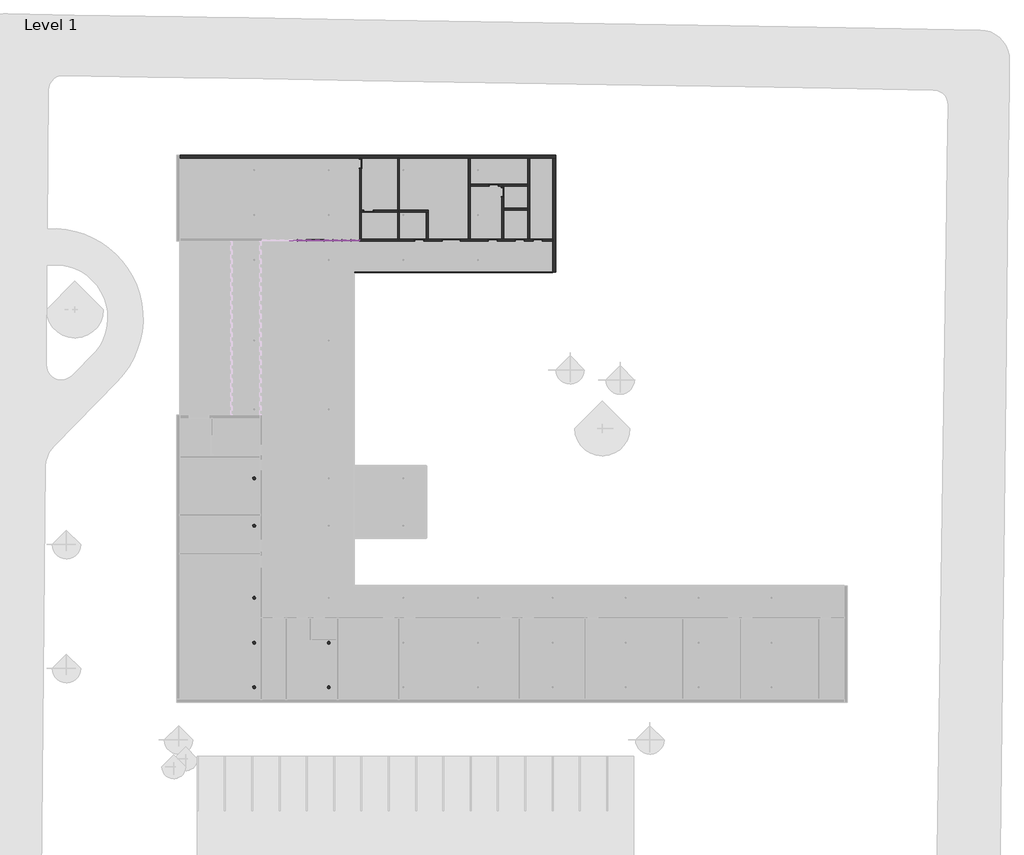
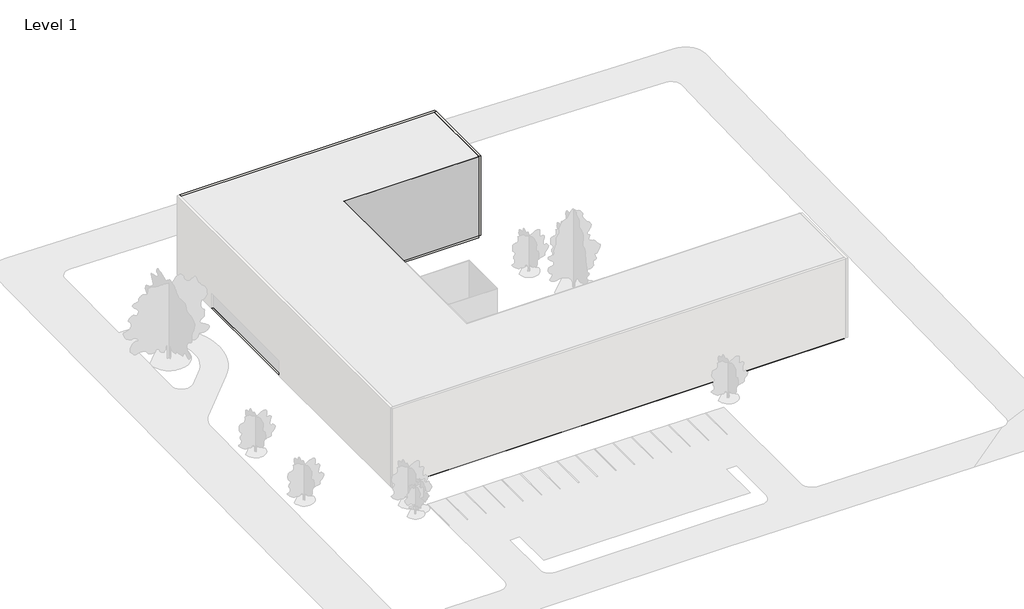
# One storey, part 4 of 5: 49 members, 15 plates, 12 walls, 10 doors, 7 columns, 1 slab.
"""IFC4 building model written with IfcOpenShell, lengths in millimetres."""

from ifc_helpers import new_model, si_unit, frame, origin, origin_with_axes, place, context, project, spatial, polyline, outline, extrude, faceted_brep, transform, mapped, element, save
from components import m_concrete_round_column_300mm_df790aaa, door_0915mm_x_2134mm_2aa27b83, door_0915mm_x_2134mm_3fa07aa3, door_2_x_0915mm_x_2134mm_c74f849d, m_door_curtain_wall_double_storefront_m_door_curtain_wall_1244dbcd, rectangular_mullion_50mm_x_150mm_13593f2b, rectangular_mullion_50mm_x_150mm_0e57614d, rectangular_mullion_50mm_x_150mm_d8a63713, rectangular_mullion_50mm_x_150mm_a5e1a8f4, rectangular_mullion_50mm_x_150mm_caa46ae3, rectangular_mullion_50mm_x_150mm_228869d4, rectangular_mullion_50mm_x_150mm_eff96389, rectangular_mullion_50mm_x_150mm_550cda47, rectangular_mullion_50mm_x_150mm_a28728bf, rectangular_mullion_50mm_x_150mm_0f59f38f, rectangular_mullion_50mm_x_150mm_22af440f, rectangular_mullion_50mm_x_150mm_1cdaa0f1, system_panel_glazed_952163be, system_panel_glazed_dff54dbd, system_panel_glazed_4aef0c34, system_panel_glazed_3f9df8c7, system_panel_glazed_45ebec01

model = new_model("IFC4")

# Units and contexts
model_context = context("Model", 3, world=origin())
ifc_project = project(units=[si_unit("LENGTHUNIT", "METRE", prefix="MILLI")], contexts=[model_context])

# Site, building, storey
site = spatial("IfcSite", under=ifc_project)
building = spatial("IfcBuilding", under=site)
storey = spatial("IfcBuildingStorey", under=building, Name="Level 1", Elevation=0.0)

# Columns
placement = place(None, origin())
m_concrete_round_column_300mm_shape = m_concrete_round_column_300mm_df790aaa(model_context)
element("IfcColumn", 1, ObjectType="M_Concrete-Round-Column : 300mm", at=placement, inside=storey, context=model_context, shape_type="MappedRepresentation", body=[
    mapped(m_concrete_round_column_300mm_shape, transform((-2539.0909489, -1309.4607941, 0.0), x_axis=(-1.0, 0.0, 0.0), y_axis=(0.0, -1.0, 0.0), z_axis=(0.0, 0.0, 1.0))),
])
element("IfcColumn", 2, ObjectType="M_Concrete-Round-Column : 300mm", at=placement, inside=storey, context=model_context, shape_type="MappedRepresentation", body=[
    mapped(m_concrete_round_column_300mm_shape, transform((-2539.0909489, -6063.8611817, 0.0), x_axis=(-1.0, 0.0, 0.0), y_axis=(0.0, -1.0, 0.0), z_axis=(0.0, 0.0, 1.0))),
])
element("IfcColumn", 3, ObjectType="M_Concrete-Round-Column : 300mm", at=placement, inside=storey, context=model_context, shape_type="MappedRepresentation", body=[
    mapped(m_concrete_round_column_300mm_shape, transform((-2539.0909489, -17821.5310875, 0.0), x_axis=(-1.0, 0.0, 0.0), y_axis=(0.0, -1.0, 0.0), z_axis=(0.0, 0.0, 1.0))),
])
element("IfcColumn", 4, ObjectType="M_Concrete-Round-Column : 300mm", at=placement, inside=storey, context=model_context, shape_type="MappedRepresentation", body=[
    mapped(m_concrete_round_column_300mm_shape, transform((-2539.0909489, -13332.3615692, 0.0), x_axis=(-1.0, 0.0, 0.0), y_axis=(0.0, -1.0, 0.0), z_axis=(0.0, 0.0, 1.0))),
])
element("IfcColumn", 5, ObjectType="M_Concrete-Round-Column : 300mm", at=placement, inside=storey, context=model_context, shape_type="MappedRepresentation", body=[
    mapped(m_concrete_round_column_300mm_shape, transform((-2539.0909489, -22310.7006057, 0.0), x_axis=(-1.0, 0.0, 0.0), y_axis=(0.0, -1.0, 0.0), z_axis=(0.0, 0.0, 1.0))),
])
element("IfcColumn", 6, ObjectType="M_Concrete-Round-Column : 300mm", at=placement, inside=storey, context=model_context, shape_type="MappedRepresentation", body=[
    mapped(m_concrete_round_column_300mm_shape, transform((4948.6567657, -17821.5310875, 0.0), x_axis=(-1.0, 0.0, 0.0), y_axis=(0.0, -1.0, 0.0), z_axis=(0.0, 0.0, 1.0))),
])
element("IfcColumn", 7, ObjectType="M_Concrete-Round-Column : 300mm", at=placement, inside=storey, context=model_context, shape_type="MappedRepresentation", body=[
    mapped(m_concrete_round_column_300mm_shape, transform((4948.6567657, -22310.7006057, 0.0), x_axis=(-1.0, 0.0, 0.0), y_axis=(0.0, -1.0, 0.0), z_axis=(0.0, 0.0, 1.0))),
])

# Doors
door_0915mm_x_2134mm_shape = door_0915mm_x_2134mm_2aa27b83(model_context)
element("IfcDoor", 8, ObjectType="m-doors-hm-f1-a : 0915mm x 2134mm", at=placement, inside=storey, context=model_context, shape_type="MappedRepresentation", body=[
    mapped(door_0915mm_x_2134mm_shape, transform((8314.5010724, 30269.5799804, 0.0), x_axis=(0.0, -1.0, 0.0), y_axis=(1.0, 0.0, 0.0), z_axis=(0.0, 0.0, 1.0))),
])
element("IfcDoor", 9, ObjectType="m-doors-hm-f1-a : 0915mm x 2134mm", at=placement, inside=storey, context=model_context, shape_type="MappedRepresentation", body=[
    mapped(door_0915mm_x_2134mm_shape, transform((14023.5010724, 22787.5799804, 0.0), x_axis=(1.0, 0.0, 0.0), y_axis=(0.0, 1.0, 0.0), z_axis=(0.0, 0.0, 1.0))),
])
element("IfcDoor", 10, ObjectType="m-doors-hm-f1-a : 0915mm x 2134mm", at=placement, inside=storey, context=model_context, shape_type="MappedRepresentation", body=[
    mapped(door_0915mm_x_2134mm_shape, transform((22573.8999097, 27428.5799804, 0.0), x_axis=(0.0, -1.0, 0.0), y_axis=(1.0, 0.0, 0.0), z_axis=(0.0, 0.0, 1.0))),
])
element("IfcDoor", 11, ObjectType="m-doors-hm-f1-a : 0915mm x 2134mm", at=placement, inside=storey, context=model_context, shape_type="MappedRepresentation", body=[
    mapped(door_0915mm_x_2134mm_shape, transform((21498.8999097, 28303.5799804, 0.0), x_axis=(1.0, 0.0, 0.0), y_axis=(0.0, 1.0, 0.0), z_axis=(0.0, 0.0, 1.0))),
])
element("IfcDoor", 12, ObjectType="m-doors-hm-f1-a : 0915mm x 2134mm", at=placement, inside=storey, context=model_context, shape_type="MappedRepresentation", body=[
    mapped(door_0915mm_x_2134mm_shape, transform((25906.8999097, 22787.5799804, 0.0), x_axis=(1.0, 0.0, 0.0), y_axis=(0.0, 1.0, 0.0), z_axis=(0.0, 0.0, 1.0))),
])
door_0915mm_x_2134mm_2_shape = door_0915mm_x_2134mm_3fa07aa3(model_context)
element("IfcDoor", 13, ObjectType="m-doors-hm-f1-a : 0915mm x 2134mm", at=placement, inside=storey, context=model_context, shape_type="MappedRepresentation", body=[
    mapped(door_0915mm_x_2134mm_2_shape, transform((8939.5010724, 25345.5799804, 0.0), x_axis=(1.0, 0.0, 0.0), y_axis=(0.0, 1.0, 0.0), z_axis=(0.0, 0.0, 1.0))),
])
element("IfcDoor", 14, ObjectType="m-doors-hm-f1-a : 0915mm x 2134mm", at=placement, inside=storey, context=model_context, shape_type="MappedRepresentation", body=[
    mapped(door_0915mm_x_2134mm_2_shape, transform((21398.8999097, 22787.5799804, 0.0), x_axis=(-1.0, 0.0, 0.0), y_axis=(0.0, -1.0, 0.0), z_axis=(0.0, 0.0, 1.0))),
])
element("IfcDoor", 15, ObjectType="m-doors-hm-f1-a : 0915mm x 2134mm", at=placement, inside=storey, context=model_context, shape_type="MappedRepresentation", body=[
    mapped(door_0915mm_x_2134mm_2_shape, transform((24106.8999097, 22787.5799804, 0.0), x_axis=(-1.0, 0.0, 0.0), y_axis=(0.0, -1.0, 0.0), z_axis=(0.0, 0.0, 1.0))),
])
door_2_x_0915mm_x_2134mm_shape = door_2_x_0915mm_x_2134mm_c74f849d(model_context)
element("IfcDoor", 16, ObjectType="m-doors-hm-f2-a : 2 x 0915mm x 2134mm", at=placement, inside=storey, context=model_context, shape_type="MappedRepresentation", body=[
    mapped(door_2_x_0915mm_x_2134mm_shape, transform((17239.5010724, 22787.5799804, 0.0), x_axis=(1.0, 0.0, 0.0), y_axis=(0.0, 1.0, 0.0), z_axis=(0.0, 0.0, 1.0))),
])
m_door_curtain_wall_double_storefront_m_door_curtain_wall_shape = m_door_curtain_wall_double_storefront_m_door_curtain_wall_1244dbcd(model_context)
element("IfcDoor", 17, ObjectType="M_Door-Curtain-Wall-Double-Storefront : M_Door-Curtain-Wall-Double-Storefront", at=placement, inside=storey, context=model_context, shape_type="MappedRepresentation", body=[
    mapped(m_door_curtain_wall_double_storefront_m_door_curtain_wall_shape, transform((3603.7102833, 22595.5799804, 0.0), x_axis=(-1.0, 0.0, 0.0), y_axis=(0.0, -1.0, 0.0), z_axis=(0.0, 0.0, 1.0))),
])

# Members
rectangular_mullion_50mm_x_150mm_shape = rectangular_mullion_50mm_x_150mm_13593f2b(model_context)
element("IfcMember", 18, ObjectType="Rectangular Mullion : 50mm x 150mm", at=placement, inside=storey, context=model_context, shape_type="MappedRepresentation", body=[
    mapped(rectangular_mullion_50mm_x_150mm_shape, transform((7997.5010724, 22595.5799804, 0.0), x_axis=(0.0, 0.0, -1.0), y_axis=(0.0, 1.0, 0.0), z_axis=(1.0, 0.0, 0.0))),
])
element("IfcMember", 19, ObjectType="Rectangular Mullion : 50mm x 150mm", at=placement, inside=storey, context=model_context, shape_type="MappedRepresentation", body=[
    mapped(rectangular_mullion_50mm_x_150mm_shape, transform((7183.7429143, 22595.5799804, 3550.0), x_axis=(0.0, 0.0, 1.0), y_axis=(0.0, 1.0, 0.0), z_axis=(-1.0, 0.0, 0.0))),
])
rectangular_mullion_50mm_x_150mm_2_shape = rectangular_mullion_50mm_x_150mm_0e57614d(model_context)
element("IfcMember", 20, ObjectType="Rectangular Mullion : 50mm x 150mm", at=placement, inside=storey, context=model_context, shape_type="MappedRepresentation", body=[
    mapped(rectangular_mullion_50mm_x_150mm_2_shape, transform((6294.9847566, 22595.5799804, 3550.0), x_axis=(0.0, 0.0, 1.0), y_axis=(0.0, 1.0, 0.0), z_axis=(-1.0, 0.0, 0.0))),
])
element("IfcMember", 21, ObjectType="Rectangular Mullion : 50mm x 150mm", at=placement, inside=storey, context=model_context, shape_type="MappedRepresentation", body=[
    mapped(rectangular_mullion_50mm_x_150mm_2_shape, transform((5406.2265988, 22595.5799804, 3550.0), x_axis=(0.0, 0.0, 1.0), y_axis=(0.0, 1.0, 0.0), z_axis=(-1.0, 0.0, 0.0))),
])
element("IfcMember", 22, ObjectType="Rectangular Mullion : 50mm x 150mm", at=placement, inside=storey, context=model_context, shape_type="MappedRepresentation", body=[
    mapped(rectangular_mullion_50mm_x_150mm_2_shape, transform((4517.4684411, 22595.5799804, 3550.0), x_axis=(0.0, 0.0, 1.0), y_axis=(0.0, 1.0, 0.0), z_axis=(-1.0, 0.0, 0.0))),
])
element("IfcMember", 23, ObjectType="Rectangular Mullion : 50mm x 150mm", at=placement, inside=storey, context=model_context, shape_type="MappedRepresentation", body=[
    mapped(rectangular_mullion_50mm_x_150mm_2_shape, transform((3628.7102833, 22595.5799804, 3550.0), x_axis=(0.0, 0.0, 1.0), y_axis=(0.0, 1.0, 0.0), z_axis=(-1.0, 0.0, 0.0))),
])
element("IfcMember", 24, ObjectType="Rectangular Mullion : 50mm x 150mm", at=placement, inside=storey, context=model_context, shape_type="MappedRepresentation", body=[
    mapped(rectangular_mullion_50mm_x_150mm_2_shape, transform((2739.9521255, 22595.5799804, 3550.0), x_axis=(0.0, 0.0, 1.0), y_axis=(0.0, 1.0, 0.0), z_axis=(-1.0, 0.0, 0.0))),
])
element("IfcMember", 25, ObjectType="Rectangular Mullion : 50mm x 150mm", at=placement, inside=storey, context=model_context, shape_type="MappedRepresentation", body=[
    mapped(rectangular_mullion_50mm_x_150mm_2_shape, transform((1851.1939678, 22595.5799804, 3550.0), x_axis=(0.0, 0.0, 1.0), y_axis=(0.0, 1.0, 0.0), z_axis=(-1.0, 0.0, 0.0))),
])
element("IfcMember", 26, ObjectType="Rectangular Mullion : 50mm x 150mm", at=placement, inside=storey, context=model_context, shape_type="MappedRepresentation", body=[
    mapped(rectangular_mullion_50mm_x_150mm_2_shape, transform((7133.7429143, 22595.5799804, 0.0), x_axis=(0.0, 0.0, -1.0), y_axis=(0.0, 1.0, 0.0), z_axis=(1.0, 0.0, 0.0))),
])
element("IfcMember", 27, ObjectType="Rectangular Mullion : 50mm x 150mm", at=placement, inside=storey, context=model_context, shape_type="MappedRepresentation", body=[
    mapped(rectangular_mullion_50mm_x_150mm_2_shape, transform((6244.9847566, 22595.5799804, 0.0), x_axis=(0.0, 0.0, -1.0), y_axis=(0.0, 1.0, 0.0), z_axis=(1.0, 0.0, 0.0))),
])
element("IfcMember", 28, ObjectType="Rectangular Mullion : 50mm x 150mm", at=placement, inside=storey, context=model_context, shape_type="MappedRepresentation", body=[
    mapped(rectangular_mullion_50mm_x_150mm_2_shape, transform((5356.2265988, 22595.5799804, 0.0), x_axis=(0.0, 0.0, -1.0), y_axis=(0.0, 1.0, 0.0), z_axis=(1.0, 0.0, 0.0))),
])
element("IfcMember", 29, ObjectType="Rectangular Mullion : 50mm x 150mm", at=placement, inside=storey, context=model_context, shape_type="MappedRepresentation", body=[
    mapped(rectangular_mullion_50mm_x_150mm_2_shape, transform((2689.9521255, 22595.5799804, 0.0), x_axis=(0.0, 0.0, -1.0), y_axis=(0.0, 1.0, 0.0), z_axis=(1.0, 0.0, 0.0))),
])
element("IfcMember", 30, ObjectType="Rectangular Mullion : 50mm x 150mm", at=placement, inside=storey, context=model_context, shape_type="MappedRepresentation", body=[
    mapped(rectangular_mullion_50mm_x_150mm_2_shape, transform((1801.1939678, 22595.5799804, 0.0), x_axis=(0.0, 0.0, -1.0), y_axis=(0.0, 1.0, 0.0), z_axis=(1.0, 0.0, 0.0))),
])
rectangular_mullion_50mm_x_150mm_3_shape = rectangular_mullion_50mm_x_150mm_d8a63713(model_context)
element("IfcMember", 31, ObjectType="Rectangular Mullion : 50mm x 150mm", at=placement, inside=storey, context=model_context, shape_type="MappedRepresentation", body=[
    mapped(rectangular_mullion_50mm_x_150mm_3_shape, transform((7158.7429143, 22595.5799804, 0.0), x_axis=(-1.0, 0.0, 0.0), y_axis=(0.0, 1.0, 0.0), z_axis=(0.0, 0.0, -1.0))),
])
element("IfcMember", 32, ObjectType="Rectangular Mullion : 50mm x 150mm", at=placement, inside=storey, context=model_context, shape_type="MappedRepresentation", body=[
    mapped(rectangular_mullion_50mm_x_150mm_3_shape, transform((6269.9847566, 22595.5799804, 0.0), x_axis=(-1.0, 0.0, 0.0), y_axis=(0.0, 1.0, 0.0), z_axis=(0.0, 0.0, -1.0))),
])
element("IfcMember", 33, ObjectType="Rectangular Mullion : 50mm x 150mm", at=placement, inside=storey, context=model_context, shape_type="MappedRepresentation", body=[
    mapped(rectangular_mullion_50mm_x_150mm_3_shape, transform((5381.2265988, 22595.5799804, 0.0), x_axis=(-1.0, 0.0, 0.0), y_axis=(0.0, 1.0, 0.0), z_axis=(0.0, 0.0, -1.0))),
])
element("IfcMember", 34, ObjectType="Rectangular Mullion : 50mm x 150mm", at=placement, inside=storey, context=model_context, shape_type="MappedRepresentation", body=[
    mapped(rectangular_mullion_50mm_x_150mm_3_shape, transform((4492.4684411, 22595.5799804, 0.0), x_axis=(-1.0, 0.0, 0.0), y_axis=(0.0, 1.0, 0.0), z_axis=(0.0, 0.0, -1.0))),
])
element("IfcMember", 35, ObjectType="Rectangular Mullion : 50mm x 150mm", at=placement, inside=storey, context=model_context, shape_type="MappedRepresentation", body=[
    mapped(rectangular_mullion_50mm_x_150mm_3_shape, transform((2714.9521255, 22595.5799804, 0.0), x_axis=(-1.0, 0.0, 0.0), y_axis=(0.0, 1.0, 0.0), z_axis=(0.0, 0.0, -1.0))),
])
element("IfcMember", 36, ObjectType="Rectangular Mullion : 50mm x 150mm", at=placement, inside=storey, context=model_context, shape_type="MappedRepresentation", body=[
    mapped(rectangular_mullion_50mm_x_150mm_3_shape, transform((1826.1939678, 22595.5799804, 0.0), x_axis=(-1.0, 0.0, 0.0), y_axis=(0.0, 1.0, 0.0), z_axis=(0.0, 0.0, -1.0))),
])
rectangular_mullion_50mm_x_150mm_4_shape = rectangular_mullion_50mm_x_150mm_a5e1a8f4(model_context)
element("IfcMember", 37, ObjectType="Rectangular Mullion : 50mm x 150mm", at=placement, inside=storey, context=model_context, shape_type="MappedRepresentation", body=[
    mapped(rectangular_mullion_50mm_x_150mm_4_shape, transform((7183.7429143, 22595.5799804, 2235.0), x_axis=(0.0, 0.0, 1.0), y_axis=(0.0, 1.0, 0.0), z_axis=(-1.0, 0.0, 0.0))),
])
element("IfcMember", 38, ObjectType="Rectangular Mullion : 50mm x 150mm", at=placement, inside=storey, context=model_context, shape_type="MappedRepresentation", body=[
    mapped(rectangular_mullion_50mm_x_150mm_4_shape, transform((7183.7429143, 22595.5799804, 2135.0), x_axis=(0.0, 0.0, 1.0), y_axis=(0.0, 1.0, 0.0), z_axis=(-1.0, 0.0, 0.0))),
])
rectangular_mullion_50mm_x_150mm_5_shape = rectangular_mullion_50mm_x_150mm_caa46ae3(model_context)
element("IfcMember", 39, ObjectType="Rectangular Mullion : 50mm x 150mm", at=placement, inside=storey, context=model_context, shape_type="MappedRepresentation", body=[
    mapped(rectangular_mullion_50mm_x_150mm_5_shape, transform((6294.9847566, 22595.5799804, 2235.0), x_axis=(0.0, 0.0, 1.0), y_axis=(0.0, 1.0, 0.0), z_axis=(-1.0, 0.0, 0.0))),
])
element("IfcMember", 40, ObjectType="Rectangular Mullion : 50mm x 150mm", at=placement, inside=storey, context=model_context, shape_type="MappedRepresentation", body=[
    mapped(rectangular_mullion_50mm_x_150mm_5_shape, transform((5406.2265988, 22595.5799804, 2235.0), x_axis=(0.0, 0.0, 1.0), y_axis=(0.0, 1.0, 0.0), z_axis=(-1.0, 0.0, 0.0))),
])
element("IfcMember", 41, ObjectType="Rectangular Mullion : 50mm x 150mm", at=placement, inside=storey, context=model_context, shape_type="MappedRepresentation", body=[
    mapped(rectangular_mullion_50mm_x_150mm_5_shape, transform((4517.4684411, 22595.5799804, 2235.0), x_axis=(0.0, 0.0, 1.0), y_axis=(0.0, 1.0, 0.0), z_axis=(-1.0, 0.0, 0.0))),
])
element("IfcMember", 42, ObjectType="Rectangular Mullion : 50mm x 150mm", at=placement, inside=storey, context=model_context, shape_type="MappedRepresentation", body=[
    mapped(rectangular_mullion_50mm_x_150mm_5_shape, transform((1851.1939678, 22595.5799804, 2235.0), x_axis=(0.0, 0.0, 1.0), y_axis=(0.0, 1.0, 0.0), z_axis=(-1.0, 0.0, 0.0))),
])
element("IfcMember", 43, ObjectType="Rectangular Mullion : 50mm x 150mm", at=placement, inside=storey, context=model_context, shape_type="MappedRepresentation", body=[
    mapped(rectangular_mullion_50mm_x_150mm_5_shape, transform((6294.9847566, 22595.5799804, 2135.0), x_axis=(0.0, 0.0, 1.0), y_axis=(0.0, 1.0, 0.0), z_axis=(-1.0, 0.0, 0.0))),
])
element("IfcMember", 44, ObjectType="Rectangular Mullion : 50mm x 150mm", at=placement, inside=storey, context=model_context, shape_type="MappedRepresentation", body=[
    mapped(rectangular_mullion_50mm_x_150mm_5_shape, transform((5406.2265988, 22595.5799804, 2135.0), x_axis=(0.0, 0.0, 1.0), y_axis=(0.0, 1.0, 0.0), z_axis=(-1.0, 0.0, 0.0))),
])
element("IfcMember", 45, ObjectType="Rectangular Mullion : 50mm x 150mm", at=placement, inside=storey, context=model_context, shape_type="MappedRepresentation", body=[
    mapped(rectangular_mullion_50mm_x_150mm_5_shape, transform((4517.4684411, 22595.5799804, 2135.0), x_axis=(0.0, 0.0, 1.0), y_axis=(0.0, 1.0, 0.0), z_axis=(-1.0, 0.0, 0.0))),
])
element("IfcMember", 46, ObjectType="Rectangular Mullion : 50mm x 150mm", at=placement, inside=storey, context=model_context, shape_type="MappedRepresentation", body=[
    mapped(rectangular_mullion_50mm_x_150mm_5_shape, transform((3628.7102833, 22595.5799804, 2135.0), x_axis=(0.0, 0.0, 1.0), y_axis=(0.0, 1.0, 0.0), z_axis=(-1.0, 0.0, 0.0))),
])
element("IfcMember", 47, ObjectType="Rectangular Mullion : 50mm x 150mm", at=placement, inside=storey, context=model_context, shape_type="MappedRepresentation", body=[
    mapped(rectangular_mullion_50mm_x_150mm_5_shape, transform((2739.9521255, 22595.5799804, 2135.0), x_axis=(0.0, 0.0, 1.0), y_axis=(0.0, 1.0, 0.0), z_axis=(-1.0, 0.0, 0.0))),
])
element("IfcMember", 48, ObjectType="Rectangular Mullion : 50mm x 150mm", at=placement, inside=storey, context=model_context, shape_type="MappedRepresentation", body=[
    mapped(rectangular_mullion_50mm_x_150mm_5_shape, transform((1851.1939678, 22595.5799804, 2135.0), x_axis=(0.0, 0.0, 1.0), y_axis=(0.0, 1.0, 0.0), z_axis=(-1.0, 0.0, 0.0))),
])
rectangular_mullion_50mm_x_150mm_6_shape = rectangular_mullion_50mm_x_150mm_228869d4(model_context)
element("IfcMember", 49, ObjectType="Rectangular Mullion : 50mm x 150mm", at=placement, inside=storey, context=model_context, shape_type="MappedRepresentation", body=[
    mapped(rectangular_mullion_50mm_x_150mm_6_shape, transform((3603.7102833, 22595.5799804, 2235.0), x_axis=(0.0, 0.0, 1.0), y_axis=(0.0, 1.0, 0.0), z_axis=(-1.0, 0.0, 0.0))),
])
element("IfcMember", 50, ObjectType="Rectangular Mullion : 50mm x 150mm", at=placement, inside=storey, context=model_context, shape_type="MappedRepresentation", body=[
    mapped(rectangular_mullion_50mm_x_150mm_6_shape, transform((2739.9521255, 22595.5799804, 2235.0), x_axis=(0.0, 0.0, 1.0), y_axis=(0.0, 1.0, 0.0), z_axis=(-1.0, 0.0, 0.0))),
])
rectangular_mullion_50mm_x_150mm_7_shape = rectangular_mullion_50mm_x_150mm_eff96389(model_context)
element("IfcMember", 51, ObjectType="Rectangular Mullion : 50mm x 150mm", at=placement, inside=storey, context=model_context, shape_type="MappedRepresentation", body=[
    mapped(rectangular_mullion_50mm_x_150mm_7_shape, transform((7158.7429143, 22595.5799804, 2235.0), x_axis=(-1.0, 0.0, 0.0), y_axis=(0.0, 1.0, 0.0), z_axis=(0.0, 0.0, -1.0))),
])
element("IfcMember", 52, ObjectType="Rectangular Mullion : 50mm x 150mm", at=placement, inside=storey, context=model_context, shape_type="MappedRepresentation", body=[
    mapped(rectangular_mullion_50mm_x_150mm_7_shape, transform((6269.9847566, 22595.5799804, 2235.0), x_axis=(-1.0, 0.0, 0.0), y_axis=(0.0, 1.0, 0.0), z_axis=(0.0, 0.0, -1.0))),
])
element("IfcMember", 53, ObjectType="Rectangular Mullion : 50mm x 150mm", at=placement, inside=storey, context=model_context, shape_type="MappedRepresentation", body=[
    mapped(rectangular_mullion_50mm_x_150mm_7_shape, transform((5381.2265988, 22595.5799804, 2235.0), x_axis=(-1.0, 0.0, 0.0), y_axis=(0.0, 1.0, 0.0), z_axis=(0.0, 0.0, -1.0))),
])
element("IfcMember", 54, ObjectType="Rectangular Mullion : 50mm x 150mm", at=placement, inside=storey, context=model_context, shape_type="MappedRepresentation", body=[
    mapped(rectangular_mullion_50mm_x_150mm_7_shape, transform((4492.4684411, 22595.5799804, 2235.0), x_axis=(-1.0, 0.0, 0.0), y_axis=(0.0, 1.0, 0.0), z_axis=(0.0, 0.0, -1.0))),
])
element("IfcMember", 55, ObjectType="Rectangular Mullion : 50mm x 150mm", at=placement, inside=storey, context=model_context, shape_type="MappedRepresentation", body=[
    mapped(rectangular_mullion_50mm_x_150mm_7_shape, transform((2714.9521255, 22595.5799804, 2235.0), x_axis=(-1.0, 0.0, 0.0), y_axis=(0.0, 1.0, 0.0), z_axis=(0.0, 0.0, -1.0))),
])
element("IfcMember", 56, ObjectType="Rectangular Mullion : 50mm x 150mm", at=placement, inside=storey, context=model_context, shape_type="MappedRepresentation", body=[
    mapped(rectangular_mullion_50mm_x_150mm_7_shape, transform((1826.1939678, 22595.5799804, 2235.0), x_axis=(-1.0, 0.0, 0.0), y_axis=(0.0, 1.0, 0.0), z_axis=(0.0, 0.0, -1.0))),
])
rectangular_mullion_50mm_x_150mm_8_shape = rectangular_mullion_50mm_x_150mm_550cda47(model_context)
element("IfcMember", 57, ObjectType="Rectangular Mullion : 50mm x 150mm", at=placement, inside=storey, context=model_context, shape_type="MappedRepresentation", body=[
    mapped(rectangular_mullion_50mm_x_150mm_8_shape, transform((8047.5010724, 22595.5799804, 2235.0), x_axis=(1.0, 0.0, 0.0), y_axis=(0.0, 1.0, 0.0), z_axis=(0.0, 0.0, 1.0))),
])
rectangular_mullion_50mm_x_150mm_9_shape = rectangular_mullion_50mm_x_150mm_a28728bf(model_context)
element("IfcMember", 58, ObjectType="Rectangular Mullion : 50mm x 150mm", at=placement, inside=storey, context=model_context, shape_type="MappedRepresentation", body=[
    mapped(rectangular_mullion_50mm_x_150mm_9_shape, transform((7158.7429143, 22595.5799804, 2135.0), x_axis=(-1.0, 0.0, 0.0), y_axis=(0.0, 1.0, 0.0), z_axis=(0.0, 0.0, -1.0))),
])
element("IfcMember", 59, ObjectType="Rectangular Mullion : 50mm x 150mm", at=placement, inside=storey, context=model_context, shape_type="MappedRepresentation", body=[
    mapped(rectangular_mullion_50mm_x_150mm_9_shape, transform((6269.9847566, 22595.5799804, 2135.0), x_axis=(-1.0, 0.0, 0.0), y_axis=(0.0, 1.0, 0.0), z_axis=(0.0, 0.0, -1.0))),
])
element("IfcMember", 60, ObjectType="Rectangular Mullion : 50mm x 150mm", at=placement, inside=storey, context=model_context, shape_type="MappedRepresentation", body=[
    mapped(rectangular_mullion_50mm_x_150mm_9_shape, transform((5381.2265988, 22595.5799804, 2135.0), x_axis=(-1.0, 0.0, 0.0), y_axis=(0.0, 1.0, 0.0), z_axis=(0.0, 0.0, -1.0))),
])
element("IfcMember", 61, ObjectType="Rectangular Mullion : 50mm x 150mm", at=placement, inside=storey, context=model_context, shape_type="MappedRepresentation", body=[
    mapped(rectangular_mullion_50mm_x_150mm_9_shape, transform((4492.4684411, 22595.5799804, 2135.0), x_axis=(-1.0, 0.0, 0.0), y_axis=(0.0, 1.0, 0.0), z_axis=(0.0, 0.0, -1.0))),
])
element("IfcMember", 62, ObjectType="Rectangular Mullion : 50mm x 150mm", at=placement, inside=storey, context=model_context, shape_type="MappedRepresentation", body=[
    mapped(rectangular_mullion_50mm_x_150mm_9_shape, transform((2714.9521255, 22595.5799804, 2135.0), x_axis=(-1.0, 0.0, 0.0), y_axis=(0.0, 1.0, 0.0), z_axis=(0.0, 0.0, -1.0))),
])
element("IfcMember", 63, ObjectType="Rectangular Mullion : 50mm x 150mm", at=placement, inside=storey, context=model_context, shape_type="MappedRepresentation", body=[
    mapped(rectangular_mullion_50mm_x_150mm_9_shape, transform((1826.1939678, 22595.5799804, 2135.0), x_axis=(-1.0, 0.0, 0.0), y_axis=(0.0, 1.0, 0.0), z_axis=(0.0, 0.0, -1.0))),
])
rectangular_mullion_50mm_x_150mm_10_shape = rectangular_mullion_50mm_x_150mm_0f59f38f(model_context)
element("IfcMember", 64, ObjectType="Rectangular Mullion : 50mm x 150mm", at=placement, inside=storey, context=model_context, shape_type="MappedRepresentation", body=[
    mapped(rectangular_mullion_50mm_x_150mm_10_shape, transform((8047.5010724, 22595.5799804, 3550.0), x_axis=(1.0, 0.0, 0.0), y_axis=(0.0, 1.0, 0.0), z_axis=(0.0, 0.0, 1.0))),
])
rectangular_mullion_50mm_x_150mm_11_shape = rectangular_mullion_50mm_x_150mm_22af440f(model_context)
element("IfcMember", 65, ObjectType="Rectangular Mullion : 50mm x 150mm", at=placement, inside=storey, context=model_context, shape_type="MappedRepresentation", body=[
    mapped(rectangular_mullion_50mm_x_150mm_11_shape, transform((8047.5010724, 22595.5799804, 2135.0), x_axis=(1.0, 0.0, 0.0), y_axis=(0.0, 1.0, 0.0), z_axis=(0.0, 0.0, 1.0))),
])
rectangular_mullion_50mm_x_150mm_12_shape = rectangular_mullion_50mm_x_150mm_1cdaa0f1(model_context)
element("IfcMember", 66, ObjectType="Rectangular Mullion : 50mm x 150mm", at=placement, inside=storey, context=model_context, shape_type="MappedRepresentation", body=[
    mapped(rectangular_mullion_50mm_x_150mm_12_shape, transform((3603.7102833, 22595.5799804, 2110.0), x_axis=(-1.0, 0.0, 0.0), y_axis=(0.0, 1.0, 0.0), z_axis=(0.0, 0.0, -1.0))),
])

# Plates
system_panel_glazed_shape = system_panel_glazed_952163be(model_context)
element("IfcPlate", 67, ObjectType="System Panel : Glazed", at=placement, inside=storey, context=model_context, shape_type="MappedRepresentation", body=[
    mapped(system_panel_glazed_shape, transform((17429.700491, 19414.8392059, 0.0), x_axis=(1.0, 0.0, 0.0), y_axis=(0.0, 1.0, 0.0), z_axis=(0.0, 0.0, 1.0))),
])
system_panel_glazed_2_shape = system_panel_glazed_dff54dbd(model_context)
element("IfcPlate", 68, ObjectType="System Panel : Glazed", at=placement, inside=storey, context=model_context, shape_type="MappedRepresentation", body=[
    mapped(system_panel_glazed_2_shape, transform((7590.6219933, 22595.5799804, 50.0), x_axis=(-1.0, 0.0, 0.0), y_axis=(0.0, -1.0, 0.0), z_axis=(0.0, 0.0, 1.0))),
])
system_panel_glazed_3_shape = system_panel_glazed_4aef0c34(model_context)
element("IfcPlate", 69, ObjectType="System Panel : Glazed", at=placement, inside=storey, context=model_context, shape_type="MappedRepresentation", body=[
    mapped(system_panel_glazed_3_shape, transform((6714.3638354, 22595.5799804, 50.0), x_axis=(-1.0, 0.0, 0.0), y_axis=(0.0, -1.0, 0.0), z_axis=(0.0, 0.0, 1.0))),
])
element("IfcPlate", 70, ObjectType="System Panel : Glazed", at=placement, inside=storey, context=model_context, shape_type="MappedRepresentation", body=[
    mapped(system_panel_glazed_3_shape, transform((5825.6056777, 22595.5799804, 50.0), x_axis=(-1.0, 0.0, 0.0), y_axis=(0.0, -1.0, 0.0), z_axis=(0.0, 0.0, 1.0))),
])
element("IfcPlate", 71, ObjectType="System Panel : Glazed", at=placement, inside=storey, context=model_context, shape_type="MappedRepresentation", body=[
    mapped(system_panel_glazed_3_shape, transform((4936.8475199, 22595.5799804, 50.0), x_axis=(-1.0, 0.0, 0.0), y_axis=(0.0, -1.0, 0.0), z_axis=(0.0, 0.0, 1.0))),
])
element("IfcPlate", 72, ObjectType="System Panel : Glazed", at=placement, inside=storey, context=model_context, shape_type="MappedRepresentation", body=[
    mapped(system_panel_glazed_3_shape, transform((2270.5730467, 22595.5799804, 50.0), x_axis=(-1.0, 0.0, 0.0), y_axis=(0.0, -1.0, 0.0), z_axis=(0.0, 0.0, 1.0))),
])
element("IfcPlate", 73, ObjectType="System Panel : Glazed", at=placement, inside=storey, context=model_context, shape_type="MappedRepresentation", body=[
    mapped(system_panel_glazed_3_shape, transform((1381.8148889, 22595.5799804, 50.0), x_axis=(-1.0, 0.0, 0.0), y_axis=(0.0, -1.0, 0.0), z_axis=(0.0, 0.0, 1.0))),
])
system_panel_glazed_4_shape = system_panel_glazed_3f9df8c7(model_context)
element("IfcPlate", 74, ObjectType="System Panel : Glazed", at=placement, inside=storey, context=model_context, shape_type="MappedRepresentation", body=[
    mapped(system_panel_glazed_4_shape, transform((7590.6219933, 22595.5799804, 2160.0), x_axis=(-1.0, 0.0, 0.0), y_axis=(0.0, -1.0, 0.0), z_axis=(0.0, 0.0, 1.0))),
])
system_panel_glazed_5_shape = system_panel_glazed_45ebec01(model_context)
element("IfcPlate", 75, ObjectType="System Panel : Glazed", at=placement, inside=storey, context=model_context, shape_type="MappedRepresentation", body=[
    mapped(system_panel_glazed_5_shape, transform((6714.3638354, 22595.5799804, 2160.0), x_axis=(-1.0, 0.0, 0.0), y_axis=(0.0, -1.0, 0.0), z_axis=(0.0, 0.0, 1.0))),
])
element("IfcPlate", 76, ObjectType="System Panel : Glazed", at=placement, inside=storey, context=model_context, shape_type="MappedRepresentation", body=[
    mapped(system_panel_glazed_5_shape, transform((5825.6056777, 22595.5799804, 2160.0), x_axis=(-1.0, 0.0, 0.0), y_axis=(0.0, -1.0, 0.0), z_axis=(0.0, 0.0, 1.0))),
])
element("IfcPlate", 77, ObjectType="System Panel : Glazed", at=placement, inside=storey, context=model_context, shape_type="MappedRepresentation", body=[
    mapped(system_panel_glazed_5_shape, transform((4936.8475199, 22595.5799804, 2160.0), x_axis=(-1.0, 0.0, 0.0), y_axis=(0.0, -1.0, 0.0), z_axis=(0.0, 0.0, 1.0))),
])
element("IfcPlate", 78, ObjectType="System Panel : Glazed", at=placement, inside=storey, context=model_context, shape_type="MappedRepresentation", body=[
    mapped(system_panel_glazed_5_shape, transform((4048.0893622, 22595.5799804, 2160.0), x_axis=(-1.0, 0.0, 0.0), y_axis=(0.0, -1.0, 0.0), z_axis=(0.0, 0.0, 1.0))),
])
element("IfcPlate", 79, ObjectType="System Panel : Glazed", at=placement, inside=storey, context=model_context, shape_type="MappedRepresentation", body=[
    mapped(system_panel_glazed_5_shape, transform((3159.3312044, 22595.5799804, 2160.0), x_axis=(-1.0, 0.0, 0.0), y_axis=(0.0, -1.0, 0.0), z_axis=(0.0, 0.0, 1.0))),
])
element("IfcPlate", 80, ObjectType="System Panel : Glazed", at=placement, inside=storey, context=model_context, shape_type="MappedRepresentation", body=[
    mapped(system_panel_glazed_5_shape, transform((2270.5730467, 22595.5799804, 2160.0), x_axis=(-1.0, 0.0, 0.0), y_axis=(0.0, -1.0, 0.0), z_axis=(0.0, 0.0, 1.0))),
])
element("IfcPlate", 81, ObjectType="System Panel : Glazed", at=placement, inside=storey, context=model_context, shape_type="MappedRepresentation", body=[
    mapped(system_panel_glazed_5_shape, transform((1381.8148889, 22595.5799804, 2160.0), x_axis=(-1.0, 0.0, 0.0), y_axis=(0.0, -1.0, 0.0), z_axis=(0.0, 0.0, 1.0))),
])

# Slab
element("IfcSlab", 82, ObjectType="Pad 1", at=placement, inside=storey, context=model_context, shape_type="SweptSolid", body=[
    extrude(outline(polyline([(27411.8999097, 30818.5799804), (27411.8999097, 19414.8392059), (7447.5010724, 19414.8392059), (7447.5010724, -89.4607941), (14709.0902051, -89.4607941), (14709.0902051, -7283.8611817), (7447.5010724, -7283.8611817), (7447.5010724, -12132.3615692), (56699.1173382, -12132.3615692), (56699.1173382, -23510.7006057), (-10026.8386635, -23510.7006057), (-10026.8386635, 30818.5799804), (27411.8999097, 30818.5799804)])), frame((0.0, 0.0, -304.8), z_axis=(0.0, 0.0, 1.0), x_axis=(1.0, 0.0, 0.0)), (0.0, 0.0, 1.0), 304.8),
])

# Walls
element("IfcWall", 83, ObjectType="P6 184mm - 1HR - ULC #W453", at=placement, inside=storey, context=model_context, shape_type="Brep", body=[
    faceted_brep([(8047.5010724, 22704.5799804, 3550.0), (8231.5010724, 22704.5799804, 3550.0), (11847.5010724, 22704.5799804, 3550.0), (12031.5010724, 22704.5799804, 3550.0), (14731.5010724, 22704.5799804, 3550.0), (14915.5010724, 22704.5799804, 3550.0), (18947.5010724, 22704.5799804, 3550.0), (19131.5010724, 22704.5799804, 3550.0), (22306.8999097, 22704.5799804, 3550.0), (22490.8999097, 22704.5799804, 3550.0), (24911.8999097, 22704.5799804, 3550.0), (25101.8999097, 22704.5799804, 3550.0), (27411.8999097, 22704.5799804, 3550.0), (27411.8999097, 22704.5799804, 0.0), (26414.3999097, 22704.5799804, 0.0), (26414.3999097, 22704.5799804, 2184.0), (25399.3999097, 22704.5799804, 2184.0), (25399.3999097, 22704.5799804, 0.0), (25101.8999097, 22704.5799804, 0.0), (24911.8999097, 22704.5799804, 0.0), (24614.3999097, 22704.5799804, 0.0), (24614.3999097, 22704.5799804, 2184.0), (23599.3999097, 22704.5799804, 2184.0), (23599.3999097, 22704.5799804, 0.0), (22490.8999097, 22704.5799804, 0.0), (22306.8999097, 22704.5799804, 0.0), (21906.3999097, 22704.5799804, 0.0), (21906.3999097, 22704.5799804, 2184.0), (20891.3999097, 22704.5799804, 2184.0), (20891.3999097, 22704.5799804, 0.0), (19131.5010724, 22704.5799804, 0.0), (18947.5010724, 22704.5799804, 0.0), (18204.5010724, 22704.5799804, 0.0), (18204.5010724, 22704.5799804, 2184.0), (16274.5010724, 22704.5799804, 2184.0), (16274.5010724, 22704.5799804, 0.0), (14915.5010724, 22704.5799804, 0.0), (14731.5010724, 22704.5799804, 0.0), (14531.0010724, 22704.5799804, 0.0), (14531.0010724, 22704.5799804, 2184.0), (13516.0010724, 22704.5799804, 2184.0), (13516.0010724, 22704.5799804, 0.0), (12031.5010724, 22704.5799804, 0.0), (11847.5010724, 22704.5799804, 0.0), (8231.5010724, 22704.5799804, 0.0), (8047.5010724, 22704.5799804, 0.0), (27411.8999097, 22520.5799804, 3550.0), (8047.5010724, 22520.5799804, 3550.0), (8047.5010724, 22520.5799804, 0.0), (13516.0010724, 22520.5799804, 0.0), (13516.0010724, 22520.5799804, 2184.0), (14531.0010724, 22520.5799804, 2184.0), (14531.0010724, 22520.5799804, 0.0), (16274.5010724, 22520.5799804, 0.0), (16274.5010724, 22520.5799804, 2184.0), (18204.5010724, 22520.5799804, 2184.0), (18204.5010724, 22520.5799804, 0.0), (20891.3999097, 22520.5799804, 0.0), (20891.3999097, 22520.5799804, 2184.0), (21906.3999097, 22520.5799804, 2184.0), (21906.3999097, 22520.5799804, 0.0), (23599.3999097, 22520.5799804, 0.0), (23599.3999097, 22520.5799804, 2184.0), (24614.3999097, 22520.5799804, 2184.0), (24614.3999097, 22520.5799804, 0.0), (25399.3999097, 22520.5799804, 0.0), (25399.3999097, 22520.5799804, 2184.0), (26414.3999097, 22520.5799804, 2184.0), (26414.3999097, 22520.5799804, 0.0), (27411.8999097, 22520.5799804, 0.0)], [[[0, 1, 2, 3, 4, 5, 6, 7, 8, 9, 10, 11, 12, 13, 14, 15, 16, 17, 18, 19, 20, 21, 22, 23, 24, 25, 26, 27, 28, 29, 30, 31, 32, 33, 34, 35, 36, 37, 38, 39, 40, 41, 42, 43, 44, 45]], [[46, 47, 48, 49, 50, 51, 52, 53, 54, 55, 56, 57, 58, 59, 60, 61, 62, 63, 64, 65, 66, 67, 68, 69]], [[13, 69, 68, 14]], [[48, 45, 44, 43, 42, 41, 49]], [[52, 38, 37, 36, 35, 53]], [[29, 57, 56, 32, 31, 30]], [[60, 26, 25, 24, 23, 61]], [[64, 20, 19, 18, 17, 65]], [[12, 11, 10, 9, 8, 7, 6, 5, 4, 3, 2, 1, 0, 47, 46]], [[13, 12, 46, 69]], [[0, 45, 48, 47]], [[51, 39, 38, 52]], [[39, 51, 50, 40]], [[40, 50, 49, 41]], [[29, 28, 58, 57]], [[28, 27, 59, 58]], [[27, 26, 60, 59]], [[23, 22, 62, 61]], [[22, 21, 63, 62]], [[21, 20, 64, 63]], [[55, 33, 32, 56]], [[33, 55, 54, 34]], [[34, 54, 53, 35]], [[67, 15, 14, 68]], [[15, 67, 66, 16]], [[16, 66, 65, 17]]]),
])
element("IfcWall", 84, ObjectType="P6 184mm - 1HR - ULC #W453", at=placement, inside=storey, context=model_context, shape_type="Brep", body=[
    faceted_brep([(8231.5010724, 30818.5799804, 3550.0), (8231.5010724, 25612.5799804, 3550.0), (8231.5010724, 25428.5799804, 3550.0), (8231.5010724, 22704.5799804, 3550.0), (8231.5010724, 22704.5799804, 0.0), (8231.5010724, 25428.5799804, 0.0), (8231.5010724, 25612.5799804, 0.0), (8231.5010724, 29762.0799804, 0.0), (8231.5010724, 29762.0799804, 2184.0), (8231.5010724, 30777.0799804, 2184.0), (8231.5010724, 30777.0799804, 0.0), (8231.5010724, 30818.5799804, 0.0), (8047.5010724, 22704.5799804, 3550.0), (8047.5010724, 30818.5799804, 3550.0), (8047.5010724, 30818.5799804, 0.0), (8047.5010724, 30777.0799804, 0.0), (8047.5010724, 30777.0799804, 2184.0), (8047.5010724, 29762.0799804, 2184.0), (8047.5010724, 29762.0799804, 0.0), (8047.5010724, 22704.5799804, 0.0)], [[[0, 1, 2, 3, 4, 5, 6, 7, 8, 9, 10, 11]], [[12, 13, 14, 15, 16, 17, 18, 19]], [[4, 19, 18, 7, 6, 5]], [[14, 11, 10, 15]], [[3, 2, 1, 0, 13, 12]], [[0, 11, 14, 13]], [[4, 3, 12, 19]], [[17, 8, 7, 18]], [[8, 17, 16, 9]], [[9, 16, 15, 10]]]),
])
element("IfcWall", 85, ObjectType="P6 184mm - 1HR - ULC #W453", at=placement, inside=storey, context=model_context, shape_type="Brep", body=[
    faceted_brep([(19131.5010724, 22704.5799804, 0.0), (19131.5010724, 28036.5799804, 0.0), (19131.5010724, 28220.5799804, 0.0), (19131.5010724, 30818.5799804, 0.0), (19131.5010724, 30818.5799804, 3550.0), (19131.5010724, 28220.5799804, 3550.0), (19131.5010724, 28036.5799804, 3550.0), (19131.5010724, 22704.5799804, 3550.0), (18947.5010724, 22704.5799804, 0.0), (18947.5010724, 22704.5799804, 3550.0), (18947.5010724, 30818.5799804, 3550.0), (18947.5010724, 30818.5799804, 0.0)], [[[0, 1, 2, 3, 4, 5, 6, 7]], [[8, 9, 10, 11]], [[3, 2, 1, 0, 8, 11]], [[7, 6, 5, 4, 10, 9]], [[4, 3, 11, 10]], [[0, 7, 9, 8]]]),
])
element("IfcWall", 86, ObjectType="P6 184mm - 1HR - ULC #W453", at=placement, inside=storey, context=model_context, shape_type="Brep", body=[
    faceted_brep([(12031.5010724, 22704.5799804, 0.0), (12031.5010724, 25428.5799804, 0.0), (12031.5010724, 25612.5799804, 0.0), (12031.5010724, 30818.5799804, 0.0), (12031.5010724, 30818.5799804, 3550.0), (12031.5010724, 25612.5799804, 3550.0), (12031.5010724, 25428.5799804, 3550.0), (12031.5010724, 22704.5799804, 3550.0), (11847.5010724, 22704.5799804, 0.0), (11847.5010724, 22704.5799804, 3550.0), (11847.5010724, 25428.5799804, 3550.0), (11847.5010724, 25612.5799804, 3550.0), (11847.5010724, 30818.5799804, 3550.0), (11847.5010724, 30818.5799804, 0.0), (11847.5010724, 25612.5799804, 0.0), (11847.5010724, 25428.5799804, 0.0)], [[[0, 1, 2, 3, 4, 5, 6, 7]], [[8, 9, 10, 11, 12, 13, 14, 15]], [[3, 2, 1, 0, 8, 15, 14, 13]], [[7, 6, 5, 4, 12, 11, 10, 9]], [[4, 3, 13, 12]], [[0, 7, 9, 8]]]),
])
element("IfcWall", 87, ObjectType="P6 184mm - 1HR - ULC #W453", at=placement, inside=storey, context=model_context, shape_type="Brep", body=[
    faceted_brep([(8231.5010724, 25428.5799804, 3550.0), (8231.5010724, 25428.5799804, 0.0), (8432.0010724, 25428.5799804, 0.0), (8432.0010724, 25428.5799804, 2184.0), (9447.0010724, 25428.5799804, 2184.0), (9447.0010724, 25428.5799804, 0.0), (11847.5010724, 25428.5799804, 0.0), (11847.5010724, 25428.5799804, 3550.0), (8231.5010724, 25612.5799804, 0.0), (8231.5010724, 25612.5799804, 3550.0), (11847.5010724, 25612.5799804, 3550.0), (11847.5010724, 25612.5799804, 0.0), (9447.0010724, 25612.5799804, 0.0), (9447.0010724, 25612.5799804, 2184.0), (8432.0010724, 25612.5799804, 2184.0), (8432.0010724, 25612.5799804, 0.0)], [[[0, 1, 2, 3, 4, 5, 6, 7]], [[8, 9, 10, 11, 12, 13, 14, 15]], [[1, 8, 15, 2]], [[5, 12, 11, 6]], [[9, 0, 7, 10]], [[1, 0, 9, 8]], [[7, 6, 11, 10]], [[5, 4, 13, 12]], [[4, 3, 14, 13]], [[3, 2, 15, 14]]]),
    faceted_brep([(14915.5010724, 25428.5799804, 0.0), (14915.5010724, 25428.5799804, 3550.0), (14731.5010724, 25428.5799804, 3550.0), (12031.5010724, 25428.5799804, 3550.0), (12031.5010724, 25428.5799804, 0.0), (14731.5010724, 25428.5799804, 0.0), (14915.5010724, 25612.5799804, 3550.0), (14915.5010724, 25612.5799804, 0.0), (12031.5010724, 25612.5799804, 0.0), (12031.5010724, 25612.5799804, 3550.0)], [[[0, 1, 2, 3, 4, 5]], [[6, 7, 8, 9]], [[7, 0, 5, 4, 8]], [[1, 6, 9, 3, 2]], [[4, 3, 9, 8]], [[1, 0, 7, 6]]]),
])
element("IfcWall", 88, ObjectType="P6 184mm - 1HR - ULC #W453", at=placement, inside=storey, context=model_context, shape_type="SweptSolid", body=[
    extrude(outline(polyline([(14915.5010724, 25428.5799804), (14915.5010724, 22704.5799804), (14731.5010724, 22704.5799804), (14731.5010724, 25428.5799804), (14915.5010724, 25428.5799804)])), origin_with_axes(), (0.0, 0.0, 1.0), 3550.0),
])
element("IfcWall", 89, ObjectType="P6 184mm - 1HR - ULC #W453", at=placement, inside=storey, context=model_context, shape_type="Brep", body=[
    faceted_brep([(24911.8999097, 28036.5799804, 3550.0), (22490.8999097, 28036.5799804, 3550.0), (22306.8999097, 28036.5799804, 3550.0), (19131.5010724, 28036.5799804, 3550.0), (19131.5010724, 28036.5799804, 0.0), (20991.3999097, 28036.5799804, 0.0), (20991.3999097, 28036.5799804, 2184.0), (22006.3999097, 28036.5799804, 2184.0), (22006.3999097, 28036.5799804, 0.0), (22306.8999097, 28036.5799804, 0.0), (22490.8999097, 28036.5799804, 0.0), (24911.8999097, 28036.5799804, 0.0), (19131.5010724, 28220.5799804, 3550.0), (24911.8999097, 28220.5799804, 3550.0), (24911.8999097, 28220.5799804, 0.0), (22006.3999097, 28220.5799804, 0.0), (22006.3999097, 28220.5799804, 2184.0), (20991.3999097, 28220.5799804, 2184.0), (20991.3999097, 28220.5799804, 0.0), (19131.5010724, 28220.5799804, 0.0)], [[[0, 1, 2, 3, 4, 5, 6, 7, 8, 9, 10, 11]], [[12, 13, 14, 15, 16, 17, 18, 19]], [[4, 19, 18, 5]], [[14, 11, 10, 9, 8, 15]], [[3, 2, 1, 0, 13, 12]], [[4, 3, 12, 19]], [[0, 11, 14, 13]], [[7, 16, 15, 8]], [[16, 7, 6, 17]], [[17, 6, 5, 18]]]),
])
element("IfcWall", 90, ObjectType="P6 184mm - 1HR - ULC #W453", at=placement, inside=storey, context=model_context, shape_type="Brep", body=[
    faceted_brep([(22306.8999097, 22704.5799804, 3550.0), (22306.8999097, 28036.5799804, 3550.0), (22306.8999097, 28036.5799804, 0.0), (22306.8999097, 27936.0799804, 0.0), (22306.8999097, 27936.0799804, 2184.0), (22306.8999097, 26921.0799804, 2184.0), (22306.8999097, 26921.0799804, 0.0), (22306.8999097, 22704.5799804, 0.0), (22490.8999097, 28036.5799804, 3550.0), (22490.8999097, 25796.5799804, 3550.0), (22490.8999097, 25612.5799804, 3550.0), (22490.8999097, 22704.5799804, 3550.0), (22490.8999097, 22704.5799804, 0.0), (22490.8999097, 25612.5799804, 0.0), (22490.8999097, 25796.5799804, 0.0), (22490.8999097, 26921.0799804, 0.0), (22490.8999097, 26921.0799804, 2184.0), (22490.8999097, 27936.0799804, 2184.0), (22490.8999097, 27936.0799804, 0.0), (22490.8999097, 28036.5799804, 0.0)], [[[0, 1, 2, 3, 4, 5, 6, 7]], [[8, 9, 10, 11, 12, 13, 14, 15, 16, 17, 18, 19]], [[2, 19, 18, 3]], [[12, 7, 6, 15, 14, 13]], [[1, 0, 11, 10, 9, 8]], [[2, 1, 8, 19]], [[0, 7, 12, 11]], [[5, 16, 15, 6]], [[16, 5, 4, 17]], [[17, 4, 3, 18]]]),
])
element("IfcWall", 91, ObjectType="P6 184mm - 1HR - ULC #W453", at=placement, inside=storey, context=model_context, shape_type="SweptSolid", body=[
    extrude(outline(polyline([(22490.8999097, 25796.5799804), (24911.8999097, 25796.5799804), (24911.8999097, 25612.5799804), (22490.8999097, 25612.5799804), (22490.8999097, 25796.5799804)])), origin_with_axes(), (0.0, 0.0, 1.0), 3550.0),
])
element("IfcWall", 92, ObjectType="Exterior - EIFS on Mtl Stud", at=placement, inside=storey, context=model_context, shape_type="Brep", body=[
    faceted_brep([(27713.8999097, 31120.5799804, 0.0), (-10026.8386635, 31120.5799804, 0.0), (-10026.8386635, 31120.5799804, 12400.0), (27713.8999097, 31120.5799804, 12400.0), (27713.8999097, 30818.5799804, 0.0), (27713.8999097, 30818.5799804, 12400.0), (27411.8999097, 30818.5799804, 12400.0), (-10026.8386635, 30818.5799804, 12400.0), (-10026.8386635, 30818.5799804, 0.0), (8047.5010724, 30818.5799804, 0.0), (8231.5010724, 30818.5799804, 0.0), (11847.5010724, 30818.5799804, 0.0), (12031.5010724, 30818.5799804, 0.0), (18947.5010724, 30818.5799804, 0.0), (19131.5010724, 30818.5799804, 0.0), (24911.8999097, 30818.5799804, 0.0), (25101.8999097, 30818.5799804, 0.0), (27411.8999097, 30818.5799804, 0.0)], [[[0, 1, 2, 3]], [[4, 5, 6, 7, 8, 9, 10, 11, 12, 13, 14, 15, 16, 17]], [[1, 0, 4, 17, 16, 15, 14, 13, 12, 11, 10, 9, 8]], [[3, 2, 7, 6, 5]], [[2, 1, 8, 7]], [[0, 3, 5, 4]]]),
])
element("IfcWall", 93, ObjectType="Exterior - EIFS on Mtl Stud", at=placement, inside=storey, context=model_context, shape_type="Brep", body=[
    faceted_brep([(27713.8999097, 19414.8392059, 0.0), (27713.8999097, 30818.5799804, 0.0), (27713.8999097, 30818.5799804, 12400.0), (27713.8999097, 19414.8392059, 12400.0), (27411.8999097, 19414.8392059, 0.0), (27411.8999097, 19414.8392059, 12400.0), (27411.8999097, 30818.5799804, 12400.0), (27411.8999097, 30818.5799804, 0.0), (27411.8999097, 22704.5799804, 0.0), (27411.8999097, 22520.5799804, 0.0)], [[[0, 1, 2, 3]], [[4, 5, 6, 7, 8, 9]], [[1, 0, 4, 9, 8, 7]], [[3, 2, 6, 5]], [[0, 3, 5, 4]], [[2, 1, 7, 6]]]),
])
element("IfcWall", 94, ObjectType="P28 190mm CMU 2 HR", at=placement, inside=storey, context=model_context, shape_type="Brep", body=[
    faceted_brep([(24911.8999097, 30818.5799804, 0.0), (24911.8999097, 28220.5799804, 0.0), (24911.8999097, 28036.5799804, 0.0), (24911.8999097, 25796.5799804, 0.0), (24911.8999097, 25612.5799804, 0.0), (24911.8999097, 22704.5799804, 0.0), (24911.8999097, 22704.5799804, 3550.0), (24911.8999097, 25612.5799804, 3550.0), (24911.8999097, 25796.5799804, 3550.0), (24911.8999097, 28036.5799804, 3550.0), (24911.8999097, 28220.5799804, 3550.0), (24911.8999097, 30818.5799804, 3550.0), (25101.8999097, 30818.5799804, 0.0), (25101.8999097, 30818.5799804, 3550.0), (25101.8999097, 22704.5799804, 3550.0), (25101.8999097, 22704.5799804, 0.0)], [[[0, 1, 2, 3, 4, 5, 6, 7, 8, 9, 10, 11]], [[12, 13, 14, 15]], [[5, 4, 3, 2, 1, 0, 12, 15]], [[11, 10, 9, 8, 7, 6, 14, 13]], [[0, 11, 13, 12]], [[6, 5, 15, 14]]]),
])

save(model, "model.ifc")
